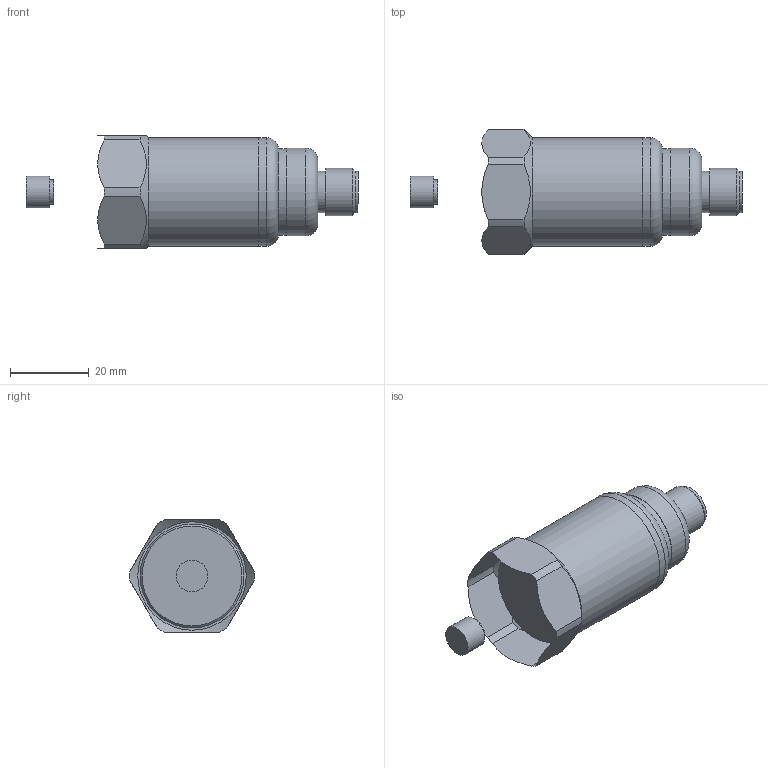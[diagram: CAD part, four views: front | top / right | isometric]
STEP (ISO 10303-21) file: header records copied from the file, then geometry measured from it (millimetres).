
FILE_DESCRIPTION(/* description */ (''),/* implementation_level */ '2;1');
FILE_NAME(/* name */ 'Z:\Engineering\Drawings\3D Library\Assemblies\Website\420 Velocity Top\HS-420XXX5419.stp',/* time_stamp */ '2023-05-03T15:27:12+01:00',/* author */ ('Ricardo.Peneda'),/* organization */ (''),/* preprocessor_version */ 'ST-DEVELOPER v18.1',/* originating_system */ 'Autodesk Inventor 2021',/* authorisation */ '');
FILE_SCHEMA (('AUTOMOTIVE_DESIGN { 1 0 10303 214 3 1 1 }'));
Length unit declared in the file: inch
Products named in the file (1): HS-420XXX5419_Shrinkwrap_1
Bounding box: 84.19 x 31.73 x 28.47 mm (x, y, z)
Volume: 17023 mm3; surface area: 11812.5 mm2
Topology: 3 solids, 3 shells, 53 faces, 139 edges, 102 vertices
Faces by surface type: cylinder 23, plane 22, cone 5, torus 3
Full cylindrical faces by diameter (mm): 6.094 x1, 7.998 x1, 9.4 x2, 10.496 x1, 10.5 x1, 12 x1, 18 x1, 19.95 x1, 20 x1, 22 x1, 22.2 x1, 23.3 x1, 25.3 x1, 25.327 x1, 27.485 x1, 27.5 x1
Entity records: 1816 total; most frequent: DIRECTION 328, CARTESIAN_POINT 319, ORIENTED_EDGE 278, AXIS2_PLACEMENT_3D 147, EDGE_CURVE 139, VERTEX_POINT 102, CIRCLE 93, EDGE_LOOP 65
